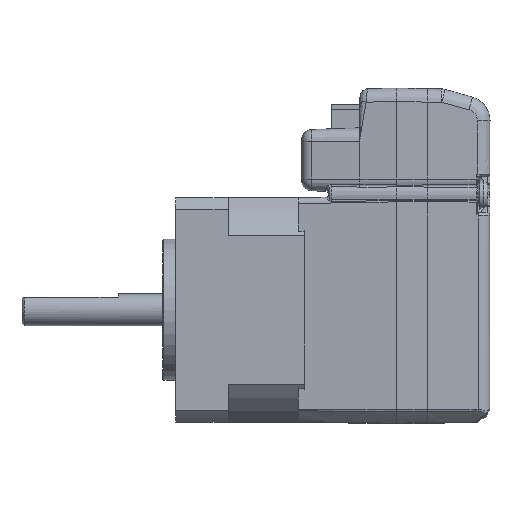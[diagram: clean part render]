
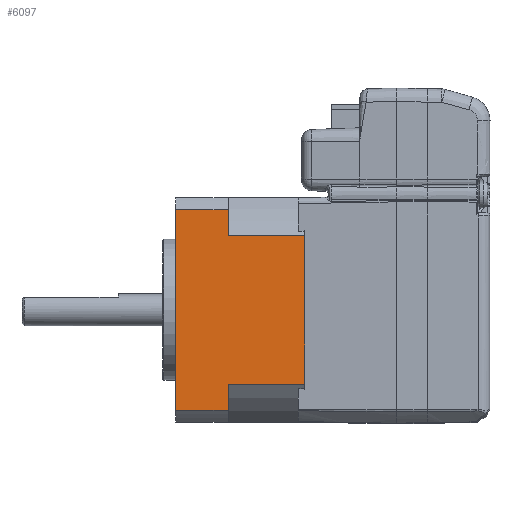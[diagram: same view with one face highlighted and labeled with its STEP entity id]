
A CAD part, left-side view. The second image highlights one B-rep face of the part: STEP entity #6097.
In plain terms, the highlighted planar face has unit normal (-1, 0, 0).
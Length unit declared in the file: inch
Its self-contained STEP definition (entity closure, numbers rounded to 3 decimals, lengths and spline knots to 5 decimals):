
#2371=EDGE_CURVE('MDI 14, Plus, 12 Pin JST[1]',#7634,#7635,#7636,.T.);
#2656=EDGE_CURVE('MDI 14, Plus, 12 Pin JST[1]',#8121,#8122,#8123,.T.);
#2881=EDGE_CURVE('MDI 14, Plus, 12 Pin JST[1]',#8490,#7635,#8491,.T.);
#2908=EDGE_CURVE('MDI 14, Plus, 12 Pin JST[1]',#8531,#8532,#8533,.F.);
#4139=EDGE_CURVE('MDI 14, Plus, 12 Pin JST[1]',#10408,#8122,#10409,.T.);
#4688=EDGE_CURVE('MDI 14, Plus, 12 Pin JST[1]',#7634,#8121,#11151,.F.);
#5025=EDGE_CURVE('MDI 14, Plus, 12 Pin JST[1]',#8531,#10408,#11585,.T.);
#6097=ADVANCED_FACE('MDI 14, Plus, 12 Pin JST[1]',(#12922),#12923,.T.);
#6378=EDGE_CURVE('MDI 14, Plus, 12 Pin JST[1]',#8490,#8532,#13255,.T.);
#7634=VERTEX_POINT('',#14971);
#7635=VERTEX_POINT('',#14972);
#7636=LINE('',#14973,#14974);
#8121=VERTEX_POINT('',#16434);
#8122=VERTEX_POINT('',#16435);
#8123=LINE('',#16436,#16437);
#8490=VERTEX_POINT('',#18160);
#8491=LINE('',#18161,#18162);
#8531=VERTEX_POINT('',#18239);
#8532=VERTEX_POINT('',#18240);
#8533=LINE('',#18241,#18242);
#10408=VERTEX_POINT('',#25932);
#10409=LINE('',#25933,#25934);
#11151=LINE('',#29255,#29256);
#11585=LINE('',#31111,#31112);
#12922=FACE_OUTER_BOUND('',#39439,.T.);
#12923=PLANE('',#39440);
#13255=LINE('',#41498,#41499);
#14971=CARTESIAN_POINT('',(-1.54316,2.02016,-0.50854));
#14972=CARTESIAN_POINT('',(-1.54316,1.54966,-0.50854));
#14973=CARTESIAN_POINT('',(-1.54316,1.74466,-0.50854));
#14974=VECTOR('',#49243,1.0);
#16434=CARTESIAN_POINT('',(-1.54316,2.02016,-0.66924));
#16435=CARTESIAN_POINT('',(-1.54316,2.34116,-0.66924));
#16436=CARTESIAN_POINT('',(-1.54316,2.08016,-0.66924));
#16437=VECTOR('',#49646,1.0);
#18160=CARTESIAN_POINT('',(-1.54316,1.54966,0.40277));
#18161=CARTESIAN_POINT('',(-1.54316,1.54966,-0.36375));
#18162=VECTOR('',#49975,1.0);
#18239=CARTESIAN_POINT('',(-1.54316,2.02016,0.56347));
#18240=CARTESIAN_POINT('',(-1.54316,2.02016,0.40277));
#18241=CARTESIAN_POINT('',(-1.54316,2.02016,0.25529));
#18242=VECTOR('',#50008,1.0);
#25932=CARTESIAN_POINT('',(-1.54316,2.34116,0.56347));
#25933=CARTESIAN_POINT('',(-1.54316,2.34116,0.56347));
#25934=VECTOR('',#51619,1.0);
#29255=CARTESIAN_POINT('',(-1.54316,2.02016,0.25529));
#29256=VECTOR('',#52332,1.0);
#31111=CARTESIAN_POINT('',(-1.54316,2.08016,0.56347));
#31112=VECTOR('',#52738,1.0);
#39439=EDGE_LOOP('',(#54229,#54230,#54231,#54232,#54233,#54234,#54235,#54236));
#39440=AXIS2_PLACEMENT_3D('',#54237,#54238,#54239);
#41498=CARTESIAN_POINT('',(-1.54316,1.74466,0.40277));
#41499=VECTOR('',#54614,1.0);
#49243=DIRECTION('',(-0.0,-1.0,-0.0));
#49646=DIRECTION('',(0.0,1.0,0.0));
#49975=DIRECTION('',(0.0,0.0,-1.0));
#50008=DIRECTION('',(0.0,0.,1.0));
#51619=DIRECTION('',(0.0,0.0,-1.0));
#52332=DIRECTION('',(0.0,0.,1.0));
#52738=DIRECTION('',(0.0,1.0,0.0));
#54229=ORIENTED_EDGE('',*,*,#4688,.F.);
#54230=ORIENTED_EDGE('',*,*,#2371,.T.);
#54231=ORIENTED_EDGE('',*,*,#2881,.F.);
#54232=ORIENTED_EDGE('',*,*,#6378,.T.);
#54233=ORIENTED_EDGE('',*,*,#2908,.F.);
#54234=ORIENTED_EDGE('',*,*,#5025,.T.);
#54235=ORIENTED_EDGE('',*,*,#4139,.T.);
#54236=ORIENTED_EDGE('',*,*,#2656,.F.);
#54237=CARTESIAN_POINT('',(-1.54316,2.00953,0.37018));
#54238=DIRECTION('',(-1.0,0.0,0.0));
#54239=DIRECTION('',(0.0,0.0,1.0));
#54614=DIRECTION('',(0.0,1.0,0.0));
